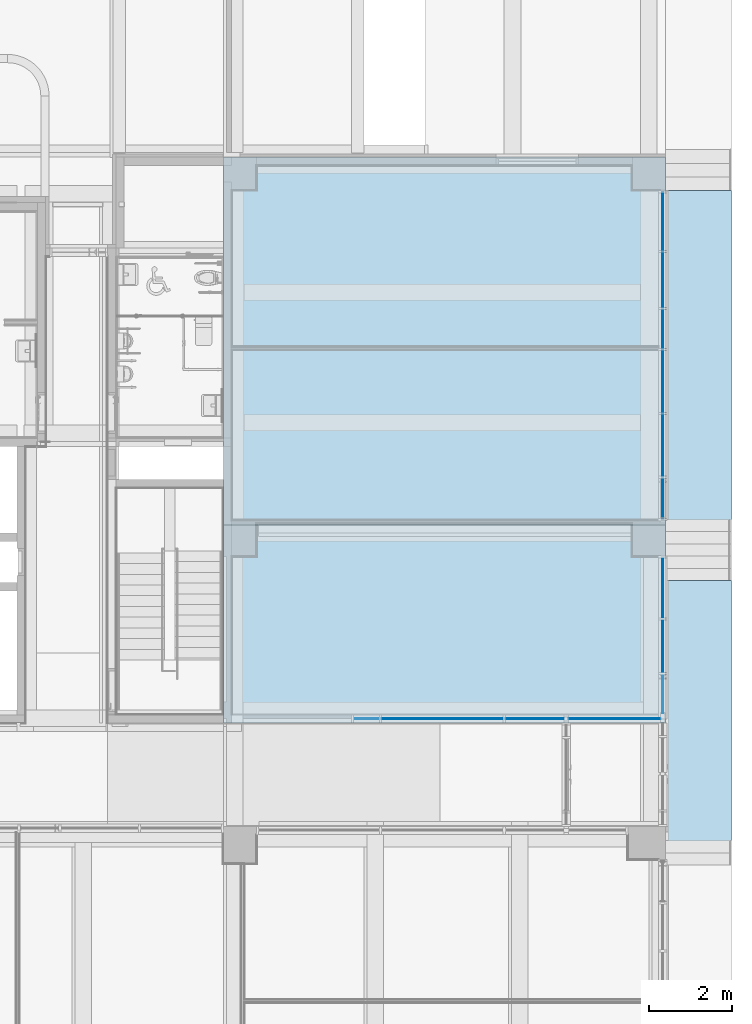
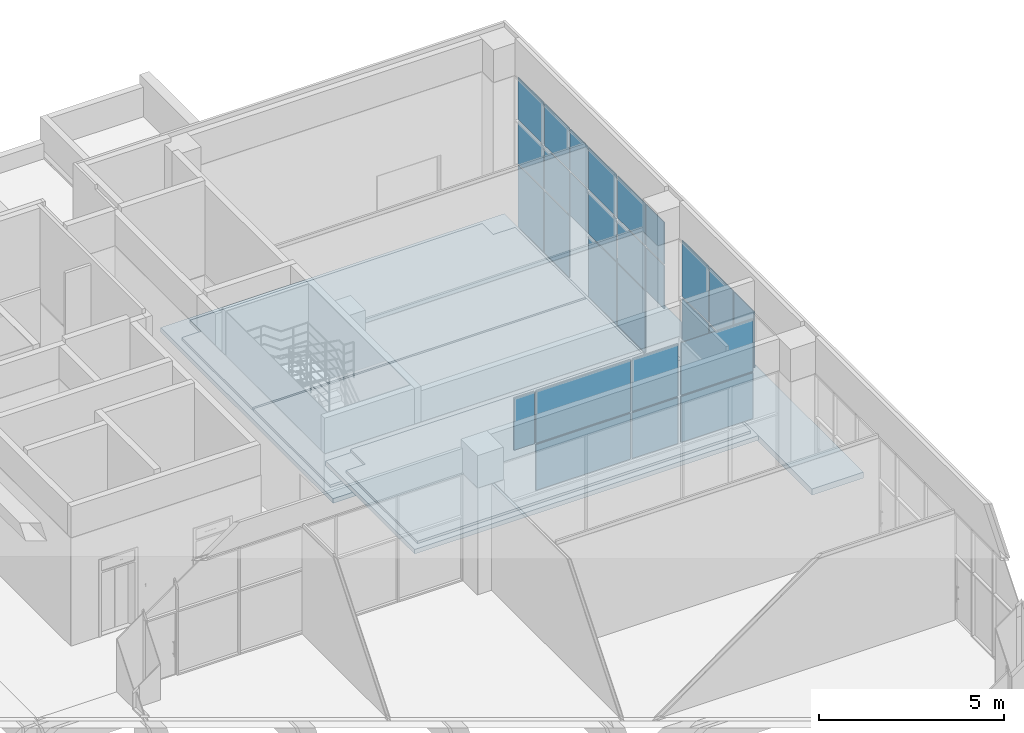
# One storey, part 27 of 100: 28 plates, 7 slabs, 3 elements without a shape of their own.
"""IFC2X3 building model written with IfcOpenShell, lengths in millimetres."""

from ifc_helpers import new_model, entity, si_unit, converted_unit, derived_unit, direction, frame, frame_2d, origin, origin_2d_with_axis, place, context, subcontext, project, spatial, polyline, rectangle, outline, extrude, source, transform, mapped, material, layer, layer_set, layer_usage, type_object, type_shapes, element, aggregate, save


model = new_model("IFC2X3")

# Units and contexts
model_context = context("Model", 3, precision=0.01, world=origin(), true_north=direction((6.123031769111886e-17, 1.0)))
body_context = subcontext(model_context, "Body", "Model", "MODEL_VIEW")
ifc_project = project(units=[si_unit("LENGTHUNIT", "METRE", prefix="MILLI"), si_unit("AREAUNIT", "SQUARE_METRE"), si_unit("VOLUMEUNIT", "CUBIC_METRE"), converted_unit("PLANEANGLEUNIT", "DEGREE", entity("IfcRatioMeasure", 0.017453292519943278), si_unit("PLANEANGLEUNIT", "RADIAN"), dimensions=[0, 0, 0, 0, 0, 0, 0]), si_unit("MASSUNIT", "GRAM", prefix="KILO"), derived_unit("MASSDENSITYUNIT", [(si_unit("MASSUNIT", "GRAM", prefix="KILO"), 1), (si_unit("LENGTHUNIT", "METRE"), -3)]), derived_unit("MOMENTOFINERTIAUNIT", [(si_unit("LENGTHUNIT", "METRE"), 4)]), si_unit("TIMEUNIT", "SECOND"), si_unit("FREQUENCYUNIT", "HERTZ"), si_unit("THERMODYNAMICTEMPERATUREUNIT", "DEGREE_CELSIUS"), derived_unit("THERMALTRANSMITTANCEUNIT", [(si_unit("MASSUNIT", "GRAM", prefix="KILO"), 1), (si_unit("THERMODYNAMICTEMPERATUREUNIT", "KELVIN"), -1), (si_unit("TIMEUNIT", "SECOND"), -3)]), derived_unit("VOLUMETRICFLOWRATEUNIT", [(si_unit("LENGTHUNIT", "METRE"), 3), (si_unit("TIMEUNIT", "SECOND"), -1)]), derived_unit("MASSFLOWRATEUNIT", [(si_unit("MASSUNIT", "GRAM", prefix="KILO"), 1), (si_unit("TIMEUNIT", "SECOND"), -1)]), derived_unit("ROTATIONALFREQUENCYUNIT", [(si_unit("TIMEUNIT", "SECOND"), -1)]), si_unit("ELECTRICCURRENTUNIT", "AMPERE"), si_unit("ELECTRICVOLTAGEUNIT", "VOLT"), si_unit("POWERUNIT", "WATT"), si_unit("FORCEUNIT", "NEWTON", prefix="KILO"), si_unit("ILLUMINANCEUNIT", "LUX"), si_unit("LUMINOUSFLUXUNIT", "LUMEN"), si_unit("LUMINOUSINTENSITYUNIT", "CANDELA"), derived_unit("USERDEFINED", [(si_unit("MASSUNIT", "GRAM", prefix="KILO"), -1), (si_unit("LENGTHUNIT", "METRE"), -2), (si_unit("TIMEUNIT", "SECOND"), 3), (si_unit("LUMINOUSFLUXUNIT", "LUMEN"), 1)]), derived_unit("SOUNDPOWERUNIT", [(si_unit("MASSUNIT", "GRAM", prefix="KILO"), 1), (si_unit("LENGTHUNIT", "METRE"), 2), (si_unit("TIMEUNIT", "SECOND"), -3)]), derived_unit("SOUNDPRESSUREUNIT", [(si_unit("MASSUNIT", "GRAM", prefix="KILO"), 1), (si_unit("LENGTHUNIT", "METRE"), -1), (si_unit("TIMEUNIT", "SECOND"), -2)]), derived_unit("LINEARVELOCITYUNIT", [(si_unit("LENGTHUNIT", "METRE"), 1), (si_unit("TIMEUNIT", "SECOND"), -1)]), si_unit("PRESSUREUNIT", "PASCAL"), derived_unit("USERDEFINED", [(si_unit("LENGTHUNIT", "METRE"), -2), (si_unit("MASSUNIT", "GRAM", prefix="KILO"), 1), (si_unit("TIMEUNIT", "SECOND"), -2)]), derived_unit("LINEARFORCEUNIT", [(si_unit("MASSUNIT", "GRAM", prefix="KILO"), 1), (si_unit("LENGTHUNIT", "METRE"), 1), (si_unit("TIMEUNIT", "SECOND"), -2), (si_unit("LENGTHUNIT", "METRE"), -1)]), derived_unit("PLANARFORCEUNIT", [(si_unit("MASSUNIT", "GRAM", prefix="KILO"), 1), (si_unit("LENGTHUNIT", "METRE"), 1), (si_unit("TIMEUNIT", "SECOND"), -2), (si_unit("LENGTHUNIT", "METRE"), -2)])], contexts=[model_context])

# Site, building, storey
site_placement = place(None, frame((-14167.972527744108, -657.2125860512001, 0.0)))
site = spatial("IfcSite", under=ifc_project, at=site_placement, Name="Default", CompositionType="ELEMENT")
building_placement = place(site_placement, origin())
building = spatial("IfcBuilding", under=site, at=building_placement, Name="Sample Building", CompositionType="ELEMENT")
storey_placement = place(building_placement, origin())
storey = spatial("IfcBuildingStorey", under=building, at=storey_placement, Name="지상 1층", CompositionType="ELEMENT", Elevation=0.0)

# Slabs
ifc_material_1 = material(Name="KBIMS-콘크리트")
ifc_layer_1 = layer(ifc_material_1, 150.0)
ifc_layer_set_1 = layer_set([ifc_layer_1], Name="바닥:SL111-철근콘크리트구조 바닥 150mm_S1")
ifc_layer_usage_1 = layer_usage(ifc_layer_set_1, "AXIS3", "POSITIVE", 0.0)
slab_type_1 = type_object("IfcSlabType", Name="바닥:SL111-철근콘크리트구조 바닥 150mm_S1", PredefinedType="FLOOR", material=ifc_layer_set_1)
slab_1_placement = place(storey_placement, origin())
element("IfcSlab", 1, at=slab_1_placement, inside=storey, type_object=slab_type_1, material=ifc_layer_usage_1, Name="바닥:SL111-철근콘크리트구조 바닥 150mm_S1", ObjectType="바닥:SL111-철근콘크리트구조 바닥 150mm_S1", PredefinedType="FLOOR", context=body_context, shape_type="SweptSolid", body=[
    extrude(rectangle(XDim=9299.99991205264, YDim=10701.975862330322, at=frame_2d((4.092726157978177e-12, -4.547473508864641e-12), x_axis=(1.0, 0.0))), frame((46116.96709425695, 24607.212339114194, -1500.0), z_axis=(0.0, 0.0, -1.0), x_axis=(0.0, 1.0, 0.0)), (0.0, 0.0, 1.0), 150.0),
])
ifc_layer_2 = layer(ifc_material_1, 150.0)
ifc_layer_set_2 = layer_set([ifc_layer_2], Name="바닥:SL111-철근콘크리트구조 바닥 150mm_S2")
ifc_layer_usage_2 = layer_usage(ifc_layer_set_2, "AXIS3", "POSITIVE", 0.0)
slab_type_2 = type_object("IfcSlabType", Name="바닥:SL111-철근콘크리트구조 바닥 150mm_S2", PredefinedType="FLOOR", material=ifc_layer_set_2)
slab_2_placement = place(storey_placement, origin())
element("IfcSlab", 2, at=slab_2_placement, inside=storey, type_object=slab_type_2, material=ifc_layer_usage_2, Name="바닥:SL111-철근콘크리트구조 바닥 150mm_S2", ObjectType="바닥:SL111-철근콘크리트구조 바닥 150mm_S2", PredefinedType="FLOOR", context=body_context, shape_type="SweptSolid", body=[
    extrude(rectangle(XDim=4800.000129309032, YDim=10701.984635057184, at=frame_2d((-2.0463630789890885e-12, 4.547473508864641e-12), x_axis=(1.0, 0.0))), frame((46116.9714806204, 17957.21231843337, -500.0), z_axis=(0.0, 0.0, -1.0), x_axis=(0.0, 1.0, 0.0)), (0.0, 0.0, 1.0), 150.0),
])
ifc_material_2 = material(Name="SL341-테라조 바닥 (바탕48mm, 마감32mm)")
ifc_layer_3 = layer(ifc_material_2, 80.0)
ifc_layer_set_3 = layer_set([ifc_layer_3], Name="바닥:A1-14-06B-테라조타일 (80mm)")
ifc_layer_usage_3 = layer_usage(ifc_layer_set_3, "AXIS3", "POSITIVE", 0.0)
slab_type_3 = type_object("IfcSlabType", Name="바닥:A1-14-06B-테라조타일 (80mm)", PredefinedType="FLOOR", material=ifc_layer_set_3)
slab_3_placement = place(storey_placement, origin())
element("IfcSlab", 3, at=slab_3_placement, inside=storey, type_object=slab_type_3, material=ifc_layer_usage_3, Name="바닥:A1-14-06B-테라조타일 (80mm)", ObjectType="바닥:A1-14-06B-테라조타일 (80mm)", PredefinedType="FLOOR", context=body_context, shape_type="SweptSolid", body=[
    extrude(outline(polyline([(-3000.0260141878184, -5168.756535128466), (800.0086463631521, -5168.756535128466), (800.0086463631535, -4568.747842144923), (1400.0086335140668, -4568.747842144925), (1400.008633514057, 4531.260881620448), (800.0087343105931, 4531.26088162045), (800.0087343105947, 5206.243495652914), (-3000.0260141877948, 5206.243495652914), (-3000.0260141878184, -5168.756535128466)])), frame((46136.72033327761, 27657.203661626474, -1420.0), z_axis=(0.0, 0.0, -1.0), x_axis=(0.0, 1.0, 0.0)), (0.0, 0.0, 1.0), 79.99999999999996),
])
ifc_layer_usage_4 = layer_usage(ifc_layer_set_3, "AXIS3", "POSITIVE", 0.0)
slab_type_4 = type_object("IfcSlabType", Name="바닥:A1-14-06B-테라조타일 (80mm)", PredefinedType="FLOOR", material=ifc_layer_set_3)
slab_4_placement = place(storey_placement, origin())
element("IfcSlab", 4, at=slab_4_placement, inside=storey, type_object=slab_type_4, material=ifc_layer_usage_4, Name="바닥:A1-14-06B-테라조타일 (80mm)", ObjectType="바닥:A1-14-06B-테라조타일 (80mm)", PredefinedType="FLOOR", context=body_context, shape_type="SweptSolid", body=[
    extrude(outline(polyline([(-3078.7500284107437, -5168.7565224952), (758.7499844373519, -5168.7565224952), (758.7499844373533, -4568.747849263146), (1558.7499844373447, -4568.747849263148), (1558.7499844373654, 4531.260894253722), (761.2500595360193, 4531.260894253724), (761.2500595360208, 5206.243477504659), (-3078.75002841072, 5206.243477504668), (-3078.7500284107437, -5168.7565224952)])), frame((46136.72032064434, 18835.962323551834, -420.0), z_axis=(0.0, 0.0, -1.0), x_axis=(0.0, 1.0, 0.0)), (0.0, 0.0, 1.0), 80.00000000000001),
])

# Curtain wall, plates
curtain_wall_type = type_object("IfcCurtainWallType", Name="커튼월:CW112-스테인리스 스틸 커튼월", PredefinedType="NOTDEFINED")
curtain_wall_1_placement = place(storey_placement, origin())
curtain_wall_1 = element("IfcCurtainWall", 5, at=curtain_wall_1_placement, inside=storey, type_object=curtain_wall_type, Name="커튼월:CW112-스테인리스 스틸 커튼월", ObjectType="커튼월:CW112-스테인리스 스틸 커튼월")
ifc_material_3 = material(Name="KBIMS-로이유리(코팅)")
plate_type_1 = type_object("IfcPlateType", Name="CW300-THK24.Low-e coating glass:CW300-THK24.Low-e coating glass", PredefinedType="CURTAIN_PANEL", material=ifc_material_3)
shared_shape_1 = source(origin(), body_context, "Body", "SweptSolid", [
    extrude(rectangle(XDim=1269.9999999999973, YDim=24.000000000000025, at=origin_2d_with_axis()), frame((0.0, 0.0, 0.0), z_axis=(0.0, 0.0, 1.0), x_axis=(-1.0, 0.0, 0.0)), (0.0, 0.0, 1.0), 2025.0000000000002),
])
type_shapes(plate_type_1, [shared_shape_1])
plate_1_placement = place(curtain_wall_1_placement, frame((51405.46382893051, 17417.17771234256, -370.0), z_axis=(0.0, 0.0, 1.0), x_axis=(0.0, 1.0, 0.0)))
plate_1 = element("IfcPlate", 6, at=plate_1_placement, type_object=plate_type_1, material=ifc_material_3, Name="CW300-THK24.Low-e coating glass:CW300-THK24.Low-e coating glass", ObjectType="CW300-THK24.Low-e coating glass:CW300-THK24.Low-e coating glass", context=body_context, shape_type="MappedRepresentation", body=[
    mapped(shared_shape_1, transform((0.0, 0.0, 0.0), scale=1.0)),
])
plate_type_2 = type_object("IfcPlateType", Name="CW300-THK24.Low-e coating glass:CW300-THK24.Low-e coating glass", PredefinedType="CURTAIN_PANEL", material=ifc_material_3)
shared_shape_2 = source(origin(), body_context, "Body", "SweptSolid", [
    extrude(rectangle(XDim=1445.0346707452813, YDim=24.000000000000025, at=origin_2d_with_axis()), frame((0.0, 0.0, 0.0), z_axis=(0.0, 0.0, 1.0), x_axis=(-1.0, 0.0, 0.0)), (0.0, 0.0, 1.0), 2025.0000000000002),
])
type_shapes(plate_type_2, [shared_shape_2])
plate_2_placement = place(curtain_wall_1_placement, frame((51405.46382893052, 18824.6950477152, -370.0), z_axis=(0.0, 0.0, 1.0), x_axis=(0.0, 1.0, 0.0)))
plate_2 = element("IfcPlate", 7, at=plate_2_placement, type_object=plate_type_2, material=ifc_material_3, Name="CW300-THK24.Low-e coating glass:CW300-THK24.Low-e coating glass", ObjectType="CW300-THK24.Low-e coating glass:CW300-THK24.Low-e coating glass", context=body_context, shape_type="MappedRepresentation", body=[
    mapped(shared_shape_2, transform((0.0, 0.0, 0.0), scale=1.0)),
])
plate_type_3 = type_object("IfcPlateType", Name="CW300-THK24.Low-e coating glass:CW300-THK24.Low-e coating glass", PredefinedType="CURTAIN_PANEL", material=ifc_material_3)
shared_shape_3 = source(origin(), body_context, "Body", "SweptSolid", [
    extrude(rectangle(XDim=1075.0000000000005, YDim=24.000000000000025, at=origin_2d_with_axis()), frame((0.0, 0.0, 0.0), z_axis=(0.0, 0.0, 1.0), x_axis=(-1.0, 0.0, 0.0)), (0.0, 0.0, 1.0), 1845.0000000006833),
])
type_shapes(plate_type_3, [shared_shape_3])
plate_3_placement = place(curtain_wall_1_placement, frame((51405.46382893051, 16194.677712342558, 1705.0), z_axis=(0.0, 0.0, 1.0), x_axis=(0.0, 1.0, 0.0)))
plate_3 = element("IfcPlate", 8, at=plate_3_placement, type_object=plate_type_3, material=ifc_material_3, Name="CW300-THK24.Low-e coating glass:CW300-THK24.Low-e coating glass", ObjectType="CW300-THK24.Low-e coating glass:CW300-THK24.Low-e coating glass", context=body_context, shape_type="MappedRepresentation", body=[
    mapped(shared_shape_3, transform((0.0, 0.0, 0.0), scale=1.0)),
])
plate_type_4 = type_object("IfcPlateType", Name="CW300-THK24.Low-e coating glass:CW300-THK24.Low-e coating glass", PredefinedType="CURTAIN_PANEL", material=ifc_material_3)
shared_shape_4 = source(origin(), body_context, "Body", "SweptSolid", [
    extrude(rectangle(XDim=1269.9999999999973, YDim=24.000000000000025, at=origin_2d_with_axis()), frame((0.0, 0.0, 0.0), z_axis=(0.0, 0.0, 1.0), x_axis=(-1.0, 0.0, 0.0)), (0.0, 0.0, 1.0), 1845.0000000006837),
])
type_shapes(plate_type_4, [shared_shape_4])
plate_4_placement = place(curtain_wall_1_placement, frame((51405.46382893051, 17417.17771234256, 1705.0), z_axis=(0.0, 0.0, 1.0), x_axis=(0.0, 1.0, 0.0)))
plate_4 = element("IfcPlate", 9, at=plate_4_placement, type_object=plate_type_4, material=ifc_material_3, Name="CW300-THK24.Low-e coating glass:CW300-THK24.Low-e coating glass", ObjectType="CW300-THK24.Low-e coating glass:CW300-THK24.Low-e coating glass", context=body_context, shape_type="MappedRepresentation", body=[
    mapped(shared_shape_4, transform((0.0, 0.0, 0.0), scale=1.0)),
])
plate_type_5 = type_object("IfcPlateType", Name="CW300-THK24.Low-e coating glass:CW300-THK24.Low-e coating glass", PredefinedType="CURTAIN_PANEL", material=ifc_material_3)
shared_shape_5 = source(origin(), body_context, "Body", "SweptSolid", [
    extrude(rectangle(XDim=1445.0346707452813, YDim=24.000000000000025, at=origin_2d_with_axis()), frame((0.0, 0.0, 0.0), z_axis=(0.0, 0.0, 1.0), x_axis=(-1.0, 0.0, 0.0)), (0.0, 0.0, 1.0), 1845.0000000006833),
])
type_shapes(plate_type_5, [shared_shape_5])
plate_5_placement = place(curtain_wall_1_placement, frame((51405.46382893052, 18824.6950477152, 1705.0), z_axis=(0.0, 0.0, 1.0), x_axis=(0.0, 1.0, 0.0)))
plate_5 = element("IfcPlate", 10, at=plate_5_placement, type_object=plate_type_5, material=ifc_material_3, Name="CW300-THK24.Low-e coating glass:CW300-THK24.Low-e coating glass", ObjectType="CW300-THK24.Low-e coating glass:CW300-THK24.Low-e coating glass", context=body_context, shape_type="MappedRepresentation", body=[
    mapped(shared_shape_5, transform((0.0, 0.0, 0.0), scale=1.0)),
])
aggregate(curtain_wall_1, [plate_1, plate_2, plate_3, plate_4, plate_5])

curtain_wall_2_placement = place(storey_placement, origin())
curtain_wall_2 = element("IfcCurtainWall", 11, at=curtain_wall_2_placement, inside=storey, type_object=curtain_wall_type, Name="커튼월:CW112-스테인리스 스틸 커튼월", ObjectType="커튼월:CW112-스테인리스 스틸 커튼월")
plate_type_6 = type_object("IfcPlateType", Name="CW300-THK24.Low-e coating glass:CW300-THK24.Low-e coating glass", PredefinedType="CURTAIN_PANEL", material=ifc_material_3)
shared_shape_6 = source(origin(), body_context, "Body", "SweptSolid", [
    extrude(rectangle(XDim=1495.0000000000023, YDim=24.000000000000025, at=origin_2d_with_axis()), frame((0.0, 0.0, 0.0), z_axis=(0.0, 0.0, 1.0), x_axis=(-1.0, 0.0, 0.0)), (0.0, 0.0, 1.0), 2025.0000000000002),
])
type_shapes(plate_type_6, [shared_shape_6])
plate_6_placement = place(curtain_wall_2_placement, frame((51405.481214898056, 22279.67771234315, -1370.0), z_axis=(0.0, 0.0, 1.0), x_axis=(0.0, 1.0, 0.0)))
plate_6 = element("IfcPlate", 12, at=plate_6_placement, type_object=plate_type_6, material=ifc_material_3, Name="CW300-THK24.Low-e coating glass:CW300-THK24.Low-e coating glass", ObjectType="CW300-THK24.Low-e coating glass:CW300-THK24.Low-e coating glass", context=body_context, shape_type="MappedRepresentation", body=[
    mapped(shared_shape_6, transform((0.0, 0.0, 0.0), scale=1.0)),
])
plate_7_placement = place(curtain_wall_2_placement, frame((51405.481214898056, 23824.677712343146, -1370.0), z_axis=(0.0, 0.0, 1.0), x_axis=(0.0, 1.0, 0.0)))
plate_7 = element("IfcPlate", 13, at=plate_7_placement, type_object=plate_type_6, material=ifc_material_3, Name="CW300-THK24.Low-e coating glass:CW300-THK24.Low-e coating glass", ObjectType="CW300-THK24.Low-e coating glass:CW300-THK24.Low-e coating glass", context=body_context, shape_type="MappedRepresentation", body=[
    mapped(shared_shape_6, transform((0.0, 0.0, 0.0), scale=1.0)),
])
plate_type_7 = type_object("IfcPlateType", Name="CW300-THK24.Low-e coating glass:CW300-THK24.Low-e coating glass", PredefinedType="CURTAIN_PANEL", material=ifc_material_3)
shared_shape_7 = source(origin(), body_context, "Body", "SweptSolid", [
    extrude(rectangle(XDim=1330.000000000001, YDim=24.000000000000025, at=origin_2d_with_axis()), frame((0.0, 0.0, 0.0), z_axis=(0.0, 0.0, 1.0), x_axis=(-1.0, 0.0, 0.0)), (0.0, 0.0, 1.0), 2025.0000000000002),
])
type_shapes(plate_type_7, [shared_shape_7])
plate_8_placement = place(curtain_wall_2_placement, frame((51405.48121489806, 26287.177712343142, -1370.0), z_axis=(0.0, 0.0, 1.0), x_axis=(0.0, 1.0, 0.0)))
plate_8 = element("IfcPlate", 14, at=plate_8_placement, type_object=plate_type_7, material=ifc_material_3, Name="CW300-THK24.Low-e coating glass:CW300-THK24.Low-e coating glass", ObjectType="CW300-THK24.Low-e coating glass:CW300-THK24.Low-e coating glass", context=body_context, shape_type="MappedRepresentation", body=[
    mapped(shared_shape_7, transform((0.0, 0.0, 0.0), scale=1.0)),
])
plate_type_8 = type_object("IfcPlateType", Name="CW300-THK24.Low-e coating glass:CW300-THK24.Low-e coating glass", PredefinedType="CURTAIN_PANEL", material=ifc_material_3)
shared_shape_8 = source(origin(), body_context, "Body", "SweptSolid", [
    extrude(rectangle(XDim=1387.0349926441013, YDim=24.000000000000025, at=origin_2d_with_axis()), frame((0.0, 0.0, 0.0), z_axis=(0.0, 0.0, 1.0), x_axis=(-1.0, 0.0, 0.0)), (0.0, 0.0, 1.0), 2025.0000000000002),
])
type_shapes(plate_type_8, [shared_shape_8])
plate_9_placement = place(curtain_wall_2_placement, frame((51405.48121489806, 27695.69520866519, -1370.0), z_axis=(0.0, 0.0, 1.0), x_axis=(0.0, 1.0, 0.0)))
plate_9 = element("IfcPlate", 15, at=plate_9_placement, type_object=plate_type_8, material=ifc_material_3, Name="CW300-THK24.Low-e coating glass:CW300-THK24.Low-e coating glass", ObjectType="CW300-THK24.Low-e coating glass:CW300-THK24.Low-e coating glass", context=body_context, shape_type="MappedRepresentation", body=[
    mapped(shared_shape_8, transform((0.0, 0.0, 0.0), scale=1.0)),
])
plate_type_9 = type_object("IfcPlateType", Name="CW300-THK24.Low-e coating glass:CW300-THK24.Low-e coating glass", PredefinedType="CURTAIN_PANEL", material=ifc_material_3)
shared_shape_9 = source(origin(), body_context, "Body", "SweptSolid", [
    extrude(rectangle(XDim=974.9654043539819, YDim=24.000000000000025, at=origin_2d_with_axis()), frame((0.0, 0.0, 0.0), z_axis=(0.0, 0.0, 1.0), x_axis=(-1.0, 0.0, 0.0)), (0.0, 0.0, 1.0), 1409.9999999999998),
])
type_shapes(plate_type_9, [shared_shape_9])
plate_10_placement = place(curtain_wall_2_placement, frame((51405.481214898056, 20994.695010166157, 705.0), z_axis=(0.0, 0.0, 1.0), x_axis=(0.0, 1.0, 0.0)))
plate_10 = element("IfcPlate", 16, at=plate_10_placement, type_object=plate_type_9, material=ifc_material_3, Name="CW300-THK24.Low-e coating glass:CW300-THK24.Low-e coating glass", ObjectType="CW300-THK24.Low-e coating glass:CW300-THK24.Low-e coating glass", context=body_context, shape_type="MappedRepresentation", body=[
    mapped(shared_shape_9, transform((0.0, 0.0, 0.0), scale=1.0)),
])
plate_type_10 = type_object("IfcPlateType", Name="CW300-THK24.Low-e coating glass:CW300-THK24.Low-e coating glass", PredefinedType="CURTAIN_PANEL", material=ifc_material_3)
shared_shape_10 = source(origin(), body_context, "Body", "SweptSolid", [
    extrude(rectangle(XDim=1495.0000000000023, YDim=24.000000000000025, at=origin_2d_with_axis()), frame((0.0, 0.0, 0.0), z_axis=(0.0, 0.0, 1.0), x_axis=(-1.0, 0.0, 0.0)), (0.0, 0.0, 1.0), 1410.000000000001),
])
type_shapes(plate_type_10, [shared_shape_10])
plate_11_placement = place(curtain_wall_2_placement, frame((51405.481214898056, 22279.67771234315, 705.0), z_axis=(0.0, 0.0, 1.0), x_axis=(0.0, 1.0, 0.0)))
plate_11 = element("IfcPlate", 17, at=plate_11_placement, type_object=plate_type_10, material=ifc_material_3, Name="CW300-THK24.Low-e coating glass:CW300-THK24.Low-e coating glass", ObjectType="CW300-THK24.Low-e coating glass:CW300-THK24.Low-e coating glass", context=body_context, shape_type="MappedRepresentation", body=[
    mapped(shared_shape_10, transform((0.0, 0.0, 0.0), scale=1.0)),
])
plate_12_placement = place(curtain_wall_2_placement, frame((51405.481214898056, 23824.677712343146, 705.0), z_axis=(0.0, 0.0, 1.0), x_axis=(0.0, 1.0, 0.0)))
plate_12 = element("IfcPlate", 18, at=plate_12_placement, type_object=plate_type_10, material=ifc_material_3, Name="CW300-THK24.Low-e coating glass:CW300-THK24.Low-e coating glass", ObjectType="CW300-THK24.Low-e coating glass:CW300-THK24.Low-e coating glass", context=body_context, shape_type="MappedRepresentation", body=[
    mapped(shared_shape_10, transform((0.0, 0.0, 0.0), scale=1.0)),
])
plate_type_11 = type_object("IfcPlateType", Name="CW300-THK24.Low-e coating glass:CW300-THK24.Low-e coating glass", PredefinedType="CURTAIN_PANEL", material=ifc_material_3)
shared_shape_11 = source(origin(), body_context, "Body", "SweptSolid", [
    extrude(rectangle(XDim=950.0000000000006, YDim=24.000000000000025, at=origin_2d_with_axis()), frame((0.0, 0.0, 0.0), z_axis=(0.0, 0.0, 1.0), x_axis=(-1.0, 0.0, 0.0)), (0.0, 0.0, 1.0), 1410.000000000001),
])
type_shapes(plate_type_11, [shared_shape_11])
plate_13_placement = place(curtain_wall_2_placement, frame((51405.48121489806, 25097.177712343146, 705.0), z_axis=(0.0, 0.0, 1.0), x_axis=(0.0, 1.0, 0.0)))
plate_13 = element("IfcPlate", 19, at=plate_13_placement, type_object=plate_type_11, material=ifc_material_3, Name="CW300-THK24.Low-e coating glass:CW300-THK24.Low-e coating glass", ObjectType="CW300-THK24.Low-e coating glass:CW300-THK24.Low-e coating glass", context=body_context, shape_type="MappedRepresentation", body=[
    mapped(shared_shape_11, transform((0.0, 0.0, 0.0), scale=1.0)),
])
plate_type_12 = type_object("IfcPlateType", Name="CW300-THK24.Low-e coating glass:CW300-THK24.Low-e coating glass", PredefinedType="CURTAIN_PANEL", material=ifc_material_3)
shared_shape_12 = source(origin(), body_context, "Body", "SweptSolid", [
    extrude(rectangle(XDim=1330.000000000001, YDim=24.000000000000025, at=origin_2d_with_axis()), frame((0.0, 0.0, 0.0), z_axis=(0.0, 0.0, 1.0), x_axis=(-1.0, 0.0, 0.0)), (0.0, 0.0, 1.0), 1410.000000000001),
])
type_shapes(plate_type_12, [shared_shape_12])
plate_14_placement = place(curtain_wall_2_placement, frame((51405.48121489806, 26287.177712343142, 705.0), z_axis=(0.0, 0.0, 1.0), x_axis=(0.0, 1.0, 0.0)))
plate_14 = element("IfcPlate", 20, at=plate_14_placement, type_object=plate_type_12, material=ifc_material_3, Name="CW300-THK24.Low-e coating glass:CW300-THK24.Low-e coating glass", ObjectType="CW300-THK24.Low-e coating glass:CW300-THK24.Low-e coating glass", context=body_context, shape_type="MappedRepresentation", body=[
    mapped(shared_shape_12, transform((0.0, 0.0, 0.0), scale=1.0)),
])
plate_type_13 = type_object("IfcPlateType", Name="CW300-THK24.Low-e coating glass:CW300-THK24.Low-e coating glass", PredefinedType="CURTAIN_PANEL", material=ifc_material_3)
shared_shape_13 = source(origin(), body_context, "Body", "SweptSolid", [
    extrude(rectangle(XDim=1387.0349926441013, YDim=24.000000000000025, at=origin_2d_with_axis()), frame((0.0, 0.0, 0.0), z_axis=(0.0, 0.0, 1.0), x_axis=(-1.0, 0.0, 0.0)), (0.0, 0.0, 1.0), 1410.000000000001),
])
type_shapes(plate_type_13, [shared_shape_13])
plate_15_placement = place(curtain_wall_2_placement, frame((51405.48121489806, 27695.69520866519, 705.0), z_axis=(0.0, 0.0, 1.0), x_axis=(0.0, 1.0, 0.0)))
plate_15 = element("IfcPlate", 21, at=plate_15_placement, type_object=plate_type_13, material=ifc_material_3, Name="CW300-THK24.Low-e coating glass:CW300-THK24.Low-e coating glass", ObjectType="CW300-THK24.Low-e coating glass:CW300-THK24.Low-e coating glass", context=body_context, shape_type="MappedRepresentation", body=[
    mapped(shared_shape_13, transform((0.0, 0.0, 0.0), scale=1.0)),
])
plate_type_14 = type_object("IfcPlateType", Name="CW300-THK24.Low-e coating glass:CW300-THK24.Low-e coating glass", PredefinedType="CURTAIN_PANEL", material=ifc_material_3)
shared_shape_14 = source(origin(), body_context, "Body", "SweptSolid", [
    extrude(rectangle(XDim=974.9654043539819, YDim=24.000000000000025, at=origin_2d_with_axis()), frame((0.0, 0.0, 0.0), z_axis=(0.0, 0.0, 1.0), x_axis=(-1.0, 0.0, 0.0)), (0.0, 0.0, 1.0), 1385.0000000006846),
])
type_shapes(plate_type_14, [shared_shape_14])
plate_16_placement = place(curtain_wall_2_placement, frame((51405.481214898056, 20994.695010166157, 2165.0), z_axis=(0.0, 0.0, 1.0), x_axis=(0.0, 1.0, 0.0)))
plate_16 = element("IfcPlate", 22, at=plate_16_placement, type_object=plate_type_14, material=ifc_material_3, Name="CW300-THK24.Low-e coating glass:CW300-THK24.Low-e coating glass", ObjectType="CW300-THK24.Low-e coating glass:CW300-THK24.Low-e coating glass", context=body_context, shape_type="MappedRepresentation", body=[
    mapped(shared_shape_14, transform((0.0, 0.0, 0.0), scale=1.0)),
])
plate_type_15 = type_object("IfcPlateType", Name="CW300-THK24.Low-e coating glass:CW300-THK24.Low-e coating glass", PredefinedType="CURTAIN_PANEL", material=ifc_material_3)
shared_shape_15 = source(origin(), body_context, "Body", "SweptSolid", [
    extrude(rectangle(XDim=1495.0000000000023, YDim=24.000000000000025, at=origin_2d_with_axis()), frame((0.0, 0.0, 0.0), z_axis=(0.0, 0.0, 1.0), x_axis=(-1.0, 0.0, 0.0)), (0.0, 0.0, 1.0), 1385.0000000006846),
])
type_shapes(plate_type_15, [shared_shape_15])
plate_17_placement = place(curtain_wall_2_placement, frame((51405.481214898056, 22279.67771234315, 2165.0), z_axis=(0.0, 0.0, 1.0), x_axis=(0.0, 1.0, 0.0)))
plate_17 = element("IfcPlate", 23, at=plate_17_placement, type_object=plate_type_15, material=ifc_material_3, Name="CW300-THK24.Low-e coating glass:CW300-THK24.Low-e coating glass", ObjectType="CW300-THK24.Low-e coating glass:CW300-THK24.Low-e coating glass", context=body_context, shape_type="MappedRepresentation", body=[
    mapped(shared_shape_15, transform((0.0, 0.0, 0.0), scale=1.0)),
])
plate_18_placement = place(curtain_wall_2_placement, frame((51405.481214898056, 23824.677712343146, 2165.0), z_axis=(0.0, 0.0, 1.0), x_axis=(0.0, 1.0, 0.0)))
plate_18 = element("IfcPlate", 24, at=plate_18_placement, type_object=plate_type_15, material=ifc_material_3, Name="CW300-THK24.Low-e coating glass:CW300-THK24.Low-e coating glass", ObjectType="CW300-THK24.Low-e coating glass:CW300-THK24.Low-e coating glass", context=body_context, shape_type="MappedRepresentation", body=[
    mapped(shared_shape_15, transform((0.0, 0.0, 0.0), scale=1.0)),
])
plate_type_16 = type_object("IfcPlateType", Name="CW300-THK24.Low-e coating glass:CW300-THK24.Low-e coating glass", PredefinedType="CURTAIN_PANEL", material=ifc_material_3)
shared_shape_16 = source(origin(), body_context, "Body", "SweptSolid", [
    extrude(rectangle(XDim=950.0000000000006, YDim=24.000000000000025, at=origin_2d_with_axis()), frame((0.0, 0.0, 0.0), z_axis=(0.0, 0.0, 1.0), x_axis=(-1.0, 0.0, 0.0)), (0.0, 0.0, 1.0), 1385.0000000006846),
])
type_shapes(plate_type_16, [shared_shape_16])
plate_19_placement = place(curtain_wall_2_placement, frame((51405.48121489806, 25097.177712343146, 2165.0), z_axis=(0.0, 0.0, 1.0), x_axis=(0.0, 1.0, 0.0)))
plate_19 = element("IfcPlate", 25, at=plate_19_placement, type_object=plate_type_16, material=ifc_material_3, Name="CW300-THK24.Low-e coating glass:CW300-THK24.Low-e coating glass", ObjectType="CW300-THK24.Low-e coating glass:CW300-THK24.Low-e coating glass", context=body_context, shape_type="MappedRepresentation", body=[
    mapped(shared_shape_16, transform((0.0, 0.0, 0.0), scale=1.0)),
])
plate_type_17 = type_object("IfcPlateType", Name="CW300-THK24.Low-e coating glass:CW300-THK24.Low-e coating glass", PredefinedType="CURTAIN_PANEL", material=ifc_material_3)
shared_shape_17 = source(origin(), body_context, "Body", "SweptSolid", [
    extrude(rectangle(XDim=1330.000000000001, YDim=24.000000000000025, at=origin_2d_with_axis()), frame((0.0, 0.0, 0.0), z_axis=(0.0, 0.0, 1.0), x_axis=(-1.0, 0.0, 0.0)), (0.0, 0.0, 1.0), 1385.0000000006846),
])
type_shapes(plate_type_17, [shared_shape_17])
plate_20_placement = place(curtain_wall_2_placement, frame((51405.48121489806, 26287.177712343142, 2165.0), z_axis=(0.0, 0.0, 1.0), x_axis=(0.0, 1.0, 0.0)))
plate_20 = element("IfcPlate", 26, at=plate_20_placement, type_object=plate_type_17, material=ifc_material_3, Name="CW300-THK24.Low-e coating glass:CW300-THK24.Low-e coating glass", ObjectType="CW300-THK24.Low-e coating glass:CW300-THK24.Low-e coating glass", context=body_context, shape_type="MappedRepresentation", body=[
    mapped(shared_shape_17, transform((0.0, 0.0, 0.0), scale=1.0)),
])
plate_type_18 = type_object("IfcPlateType", Name="CW300-THK24.Low-e coating glass:CW300-THK24.Low-e coating glass", PredefinedType="CURTAIN_PANEL", material=ifc_material_3)
shared_shape_18 = source(origin(), body_context, "Body", "SweptSolid", [
    extrude(rectangle(XDim=1387.0349926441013, YDim=24.000000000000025, at=origin_2d_with_axis()), frame((0.0, 0.0, 0.0), z_axis=(0.0, 0.0, 1.0), x_axis=(-1.0, 0.0, 0.0)), (0.0, 0.0, 1.0), 1385.0000000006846),
])
type_shapes(plate_type_18, [shared_shape_18])
plate_21_placement = place(curtain_wall_2_placement, frame((51405.48121489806, 27695.69520866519, 2165.0), z_axis=(0.0, 0.0, 1.0), x_axis=(0.0, 1.0, 0.0)))
plate_21 = element("IfcPlate", 27, at=plate_21_placement, type_object=plate_type_18, material=ifc_material_3, Name="CW300-THK24.Low-e coating glass:CW300-THK24.Low-e coating glass", ObjectType="CW300-THK24.Low-e coating glass:CW300-THK24.Low-e coating glass", context=body_context, shape_type="MappedRepresentation", body=[
    mapped(shared_shape_18, transform((0.0, 0.0, 0.0), scale=1.0)),
])
aggregate(curtain_wall_2, [plate_6, plate_7, plate_8, plate_9, plate_10, plate_11, plate_12, plate_13, plate_14, plate_15, plate_16, plate_17, plate_18, plate_19, plate_20, plate_21])

curtain_wall_3_placement = place(storey_placement, origin())
curtain_wall_3 = element("IfcCurtainWall", 28, at=curtain_wall_3_placement, inside=storey, type_object=curtain_wall_type, Name="커튼월:CW112-스테인리스 스틸 커튼월", ObjectType="커튼월:CW112-스테인리스 스틸 커튼월")
plate_type_19 = type_object("IfcPlateType", Name="CW300-THK24.Low-e coating glass:CW300-THK24.Low-e coating glass", PredefinedType="CURTAIN_PANEL", material=ifc_material_3)
shared_shape_19 = source(origin(), body_context, "Body", "SweptSolid", [
    extrude(rectangle(XDim=2237.4913377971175, YDim=24.000000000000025, at=origin_2d_with_axis()), frame((0.0, 0.0, 0.0), z_axis=(0.0, 0.0, 1.0), x_axis=(-1.0, 0.0, 0.0)), (0.0, 0.0, 1.0), 1505.0),
])
type_shapes(plate_type_19, [shared_shape_19])
plate_22_placement = place(curtain_wall_3_placement, frame((50236.71816003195, 15657.19487839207, 50.0), z_axis=(0.0, 0.0, 1.0), x_axis=(-1.0, 0.0, 0.0)))
plate_22 = element("IfcPlate", 29, at=plate_22_placement, type_object=plate_type_19, material=ifc_material_3, Name="CW300-THK24.Low-e coating glass:CW300-THK24.Low-e coating glass", ObjectType="CW300-THK24.Low-e coating glass:CW300-THK24.Low-e coating glass", context=body_context, shape_type="MappedRepresentation", body=[
    mapped(shared_shape_19, transform((0.0, 0.0, 0.0), scale=1.0)),
])
plate_type_20 = type_object("IfcPlateType", Name="CW300-THK24.Low-e coating glass:CW300-THK24.Low-e coating glass", PredefinedType="CURTAIN_PANEL", material=ifc_material_3)
shared_shape_20 = source(origin(), body_context, "Body", "SweptSolid", [
    extrude(rectangle(XDim=1424.9999999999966, YDim=24.000000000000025, at=origin_2d_with_axis()), frame((0.0, 0.0, 0.0), z_axis=(0.0, 0.0, 1.0), x_axis=(-1.0, 0.0, 0.0)), (0.0, 0.0, 1.0), 1505.0),
])
type_shapes(plate_type_20, [shared_shape_20])
plate_23_placement = place(curtain_wall_3_placement, frame((48305.472491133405, 15657.194878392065, 50.0), z_axis=(0.0, 0.0, 1.0), x_axis=(-1.0, 0.0, 0.0)))
plate_23 = element("IfcPlate", 30, at=plate_23_placement, type_object=plate_type_20, material=ifc_material_3, Name="CW300-THK24.Low-e coating glass:CW300-THK24.Low-e coating glass", ObjectType="CW300-THK24.Low-e coating glass:CW300-THK24.Low-e coating glass", context=body_context, shape_type="MappedRepresentation", body=[
    mapped(shared_shape_20, transform((0.0, 0.0, 0.0), scale=1.0)),
])
plate_type_21 = type_object("IfcPlateType", Name="CW300-THK24.Low-e coating glass:CW300-THK24.Low-e coating glass", PredefinedType="CURTAIN_PANEL", material=ifc_material_3)
shared_shape_21 = source(origin(), body_context, "Body", "SweptSolid", [
    extrude(rectangle(XDim=2949.9999999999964, YDim=24.000000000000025, at=origin_2d_with_axis()), frame((0.0, 0.0, 0.0), z_axis=(0.0, 0.0, 1.0), x_axis=(-1.0, 0.0, 0.0)), (0.0, 0.0, 1.0), 1505.0),
])
type_shapes(plate_type_21, [shared_shape_21])
plate_24_placement = place(curtain_wall_3_placement, frame((46067.972491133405, 15657.194878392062, 50.0), z_axis=(0.0, 0.0, 1.0), x_axis=(-1.0, 0.0, 0.0)))
plate_24 = element("IfcPlate", 31, at=plate_24_placement, type_object=plate_type_21, material=ifc_material_3, Name="CW300-THK24.Low-e coating glass:CW300-THK24.Low-e coating glass", ObjectType="CW300-THK24.Low-e coating glass:CW300-THK24.Low-e coating glass", context=body_context, shape_type="MappedRepresentation", body=[
    mapped(shared_shape_21, transform((0.0, 0.0, 0.0), scale=1.0)),
])
plate_type_22 = type_object("IfcPlateType", Name="CW300-THK24.Low-e coating glass:CW300-THK24.Low-e coating glass", PredefinedType="CURTAIN_PANEL", material=ifc_material_3)
shared_shape_22 = source(origin(), body_context, "Body", "SweptSolid", [
    extrude(rectangle(XDim=2237.4913377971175, YDim=24.000000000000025, at=origin_2d_with_axis()), frame((0.0, 0.0, 0.0), z_axis=(0.0, 0.0, 1.0), x_axis=(-1.0, 0.0, 0.0)), (0.0, 0.0, 1.0), 1724.9999999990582),
])
type_shapes(plate_type_22, [shared_shape_22])
plate_25_placement = place(curtain_wall_3_placement, frame((50236.71816003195, 15657.19487839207, 1605.0), z_axis=(0.0, 0.0, 1.0), x_axis=(-1.0, 0.0, 0.0)))
plate_25 = element("IfcPlate", 32, at=plate_25_placement, type_object=plate_type_22, material=ifc_material_3, Name="CW300-THK24.Low-e coating glass:CW300-THK24.Low-e coating glass", ObjectType="CW300-THK24.Low-e coating glass:CW300-THK24.Low-e coating glass", context=body_context, shape_type="MappedRepresentation", body=[
    mapped(shared_shape_22, transform((0.0, 0.0, 0.0), scale=1.0)),
])
plate_type_23 = type_object("IfcPlateType", Name="CW300-THK24.Low-e coating glass:CW300-THK24.Low-e coating glass", PredefinedType="CURTAIN_PANEL", material=ifc_material_3)
shared_shape_23 = source(origin(), body_context, "Body", "SweptSolid", [
    extrude(rectangle(XDim=1424.9999999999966, YDim=24.000000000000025, at=origin_2d_with_axis()), frame((0.0, 0.0, 0.0), z_axis=(0.0, 0.0, 1.0), x_axis=(-1.0, 0.0, 0.0)), (0.0, 0.0, 1.0), 1724.9999999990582),
])
type_shapes(plate_type_23, [shared_shape_23])
plate_26_placement = place(curtain_wall_3_placement, frame((48305.472491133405, 15657.194878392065, 1605.0), z_axis=(0.0, 0.0, 1.0), x_axis=(-1.0, 0.0, 0.0)))
plate_26 = element("IfcPlate", 33, at=plate_26_placement, type_object=plate_type_23, material=ifc_material_3, Name="CW300-THK24.Low-e coating glass:CW300-THK24.Low-e coating glass", ObjectType="CW300-THK24.Low-e coating glass:CW300-THK24.Low-e coating glass", context=body_context, shape_type="MappedRepresentation", body=[
    mapped(shared_shape_23, transform((0.0, 0.0, 0.0), scale=1.0)),
])
plate_type_24 = type_object("IfcPlateType", Name="CW300-THK24.Low-e coating glass:CW300-THK24.Low-e coating glass", PredefinedType="CURTAIN_PANEL", material=ifc_material_3)
shared_shape_24 = source(origin(), body_context, "Body", "SweptSolid", [
    extrude(rectangle(XDim=2949.9999999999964, YDim=24.000000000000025, at=origin_2d_with_axis()), frame((0.0, 0.0, 0.0), z_axis=(0.0, 0.0, 1.0), x_axis=(-1.0, 0.0, 0.0)), (0.0, 0.0, 1.0), 1724.9999999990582),
])
type_shapes(plate_type_24, [shared_shape_24])
plate_27_placement = place(curtain_wall_3_placement, frame((46067.972491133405, 15657.194878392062, 1605.0), z_axis=(0.0, 0.0, 1.0), x_axis=(-1.0, 0.0, 0.0)))
plate_27 = element("IfcPlate", 34, at=plate_27_placement, type_object=plate_type_24, material=ifc_material_3, Name="CW300-THK24.Low-e coating glass:CW300-THK24.Low-e coating glass", ObjectType="CW300-THK24.Low-e coating glass:CW300-THK24.Low-e coating glass", context=body_context, shape_type="MappedRepresentation", body=[
    mapped(shared_shape_24, transform((0.0, 0.0, 0.0), scale=1.0)),
])
plate_type_25 = type_object("IfcPlateType", Name="CW300-THK24.Low-e coating glass:CW300-THK24.Low-e coating glass", PredefinedType="CURTAIN_PANEL", material=ifc_material_3)
shared_shape_25 = source(origin(), body_context, "Body", "SweptSolid", [
    extrude(rectangle(XDim=625.0000000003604, YDim=24.000000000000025, at=origin_2d_with_axis()), frame((0.0, 0.0, 0.0), z_axis=(0.0, 0.0, 1.0), x_axis=(-1.0, 0.0, 0.0)), (0.0, 0.0, 1.0), 1724.9999999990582),
])
type_shapes(plate_type_25, [shared_shape_25])
plate_28_placement = place(curtain_wall_3_placement, frame((44230.472491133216, 15657.194878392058, 1605.0), z_axis=(0.0, 0.0, 1.0), x_axis=(-1.0, 0.0, 0.0)))
plate_28 = element("IfcPlate", 35, at=plate_28_placement, type_object=plate_type_25, material=ifc_material_3, Name="CW300-THK24.Low-e coating glass:CW300-THK24.Low-e coating glass", ObjectType="CW300-THK24.Low-e coating glass:CW300-THK24.Low-e coating glass", context=body_context, shape_type="MappedRepresentation", body=[
    mapped(shared_shape_25, transform((0.0, 0.0, 0.0), scale=1.0)),
])
aggregate(curtain_wall_3, [plate_22, plate_23, plate_24, plate_25, plate_26, plate_27, plate_28])

# Slabs
ifc_layer_4 = layer(ifc_material_1, 200.0)
ifc_layer_set_4 = layer_set([ifc_layer_4], Name="바닥:SL111-철근콘크리트구조 바닥 200mm_S11")
ifc_layer_usage_5 = layer_usage(ifc_layer_set_4, "AXIS3", "POSITIVE", 0.0)
slab_type_5 = type_object("IfcSlabType", Name="바닥:SL111-철근콘크리트구조 바닥 200mm_S11", PredefinedType="FLOOR", material=ifc_layer_set_4)
slab_5_placement = place(storey_placement, origin())
element("IfcSlab", 36, at=slab_5_placement, inside=storey, type_object=slab_type_5, material=ifc_layer_usage_5, Name="바닥:SL111-철근콘크리트구조 바닥 200mm_S11", ObjectType="바닥:SL111-철근콘크리트구조 바닥 200mm_S11", PredefinedType="FLOOR", context=body_context, shape_type="SweptSolid", body=[
    extrude(rectangle(XDim=8089.999987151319, YDim=1600.0086622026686, at=frame_2d((0.0, 8.697043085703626e-12), x_axis=(1.0, 0.0))), frame((52267.96816003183, 24402.21230156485, -1500.0), z_axis=(0.0, 0.0, -1.0), x_axis=(0.0, 1.0, 0.0)), (0.0, 0.0, 1.0), 200.0),
])
ifc_layer_usage_6 = layer_usage(ifc_layer_set_4, "AXIS3", "POSITIVE", 0.0)
slab_type_6 = type_object("IfcSlabType", Name="바닥:SL111-철근콘크리트구조 바닥 200mm_S11", PredefinedType="FLOOR", material=ifc_layer_set_4)
slab_6_placement = place(storey_placement, origin())
element("IfcSlab", 37, at=slab_6_placement, inside=storey, type_object=slab_type_6, material=ifc_layer_usage_6, Name="바닥:SL111-철근콘크리트구조 바닥 200mm_S11", ObjectType="바닥:SL111-철근콘크리트구조 바닥 200mm_S11", PredefinedType="FLOOR", context=body_context, shape_type="SweptSolid", body=[
    extrude(rectangle(XDim=6349.9995781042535, YDim=1600.008662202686, at=frame_2d((0.0, 4.376943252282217e-12), x_axis=(1.0, 0.0))), frame((52267.96816003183, 15832.212518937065, -500.0), z_axis=(0.0, 0.0, -1.0), x_axis=(0.0, 1.0, 0.0)), (0.0, 0.0, 1.0), 200.0),
])
ifc_layer_usage_7 = layer_usage(ifc_layer_set_3, "AXIS3", "POSITIVE", 0.0)
slab_type_7 = type_object("IfcSlabType", Name="바닥:A1-14-06B-테라조타일 (80mm)", PredefinedType="FLOOR", material=ifc_layer_set_3)
slab_7_placement = place(storey_placement, origin())
element("IfcSlab", 38, at=slab_7_placement, inside=storey, type_object=slab_type_7, material=ifc_layer_usage_7, Name="바닥:A1-14-06B-테라조타일 (80mm)", ObjectType="바닥:A1-14-06B-테라조타일 (80mm)", PredefinedType="FLOOR", context=body_context, shape_type="SweptSolid", body=[
    extrude(rectangle(XDim=4137.465339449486, YDim=10375.00003078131, at=frame_2d((-2.3874235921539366e-11, -1.2732925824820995e-11), x_axis=(1.0, 0.0))), frame((46155.46381353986, 22525.94497771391, -1420.0), z_axis=(0.0, 0.0, -1.0), x_axis=(0.0, 1.0, 0.0)), (0.0, 0.0, 1.0), 79.99999999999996),
])

save(model, "model.ifc")
